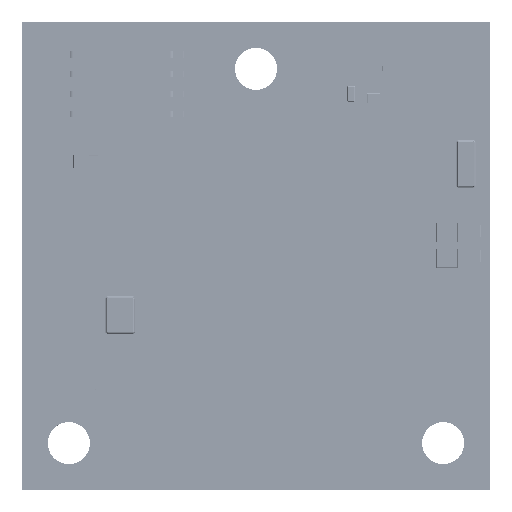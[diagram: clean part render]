
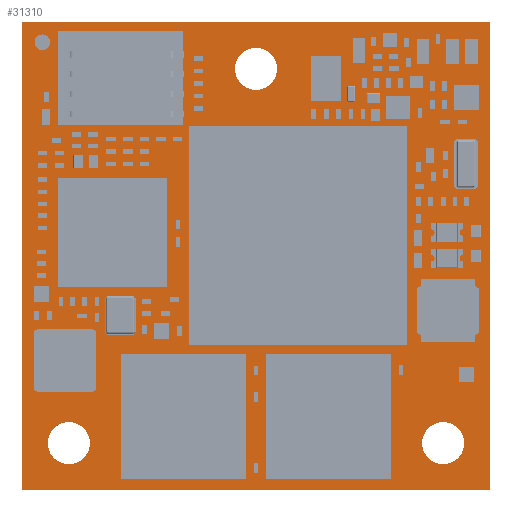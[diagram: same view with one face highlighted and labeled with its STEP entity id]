
A CAD part, top view. The second image highlights one B-rep face of the part: STEP entity #31310.
In plain terms, the highlighted planar face has unit normal (0, 0, 1).
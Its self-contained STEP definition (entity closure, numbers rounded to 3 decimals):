
#31310=ADVANCED_FACE('',(#58432,#58433,#58434,#58435),#58436,.T.);
#58432=FACE_BOUND('',#88091,.T.);
#58433=FACE_BOUND('',#88092,.T.);
#58434=FACE_BOUND('',#88093,.T.);
#58435=FACE_OUTER_BOUND('',#88094,.T.);
#58436=PLANE('',#88095);
#88091=EDGE_LOOP('',(#147600));
#88092=EDGE_LOOP('',(#147601));
#88093=EDGE_LOOP('',(#147602));
#88094=EDGE_LOOP('',(#147603,#147604,#147605,#147606));
#88095=AXIS2_PLACEMENT_3D('',#147607,#147608,#147609);
#147600=ORIENTED_EDGE('',*,*,#168984,.T.);
#147601=ORIENTED_EDGE('',*,*,#168987,.T.);
#147602=ORIENTED_EDGE('',*,*,#168990,.T.);
#147603=ORIENTED_EDGE('',*,*,#168992,.T.);
#147604=ORIENTED_EDGE('',*,*,#168993,.T.);
#147605=ORIENTED_EDGE('',*,*,#168994,.T.);
#147606=ORIENTED_EDGE('',*,*,#168995,.T.);
#147607=CARTESIAN_POINT('',(15.0,15.0,1.581));
#147608=DIRECTION('',(0.0,0.0,1.0));
#147609=DIRECTION('',(1.0,0.0,0.0));
#168984=EDGE_CURVE('',#199921,#199921,#199922,.T.);
#168987=EDGE_CURVE('',#199926,#199926,#199927,.T.);
#168990=EDGE_CURVE('',#199931,#199931,#199932,.T.);
#168992=EDGE_CURVE('',#199934,#199935,#199936,.T.);
#168993=EDGE_CURVE('',#199935,#199937,#199938,.T.);
#168994=EDGE_CURVE('',#199937,#199939,#199940,.T.);
#168995=EDGE_CURVE('',#199939,#199934,#199941,.T.);
#199921=VERTEX_POINT('',#242625);
#199922=CIRCLE('',#242626,1.35);
#199926=VERTEX_POINT('',#242630);
#199927=CIRCLE('',#242631,1.35);
#199931=VERTEX_POINT('',#242635);
#199932=CIRCLE('',#242636,1.35);
#199934=VERTEX_POINT('',#242638);
#199935=VERTEX_POINT('',#242639);
#199936=LINE('',#242640,#242641);
#199937=VERTEX_POINT('',#242642);
#199938=LINE('',#242643,#242644);
#199939=VERTEX_POINT('',#242645);
#199940=LINE('',#242646,#242647);
#199941=LINE('',#242648,#242649);
#242625=CARTESIAN_POINT('',(25.65,3.0,1.581));
#242626=AXIS2_PLACEMENT_3D('',#264953,#264954,#264955);
#242630=CARTESIAN_POINT('',(1.65,3.0,1.581));
#242631=AXIS2_PLACEMENT_3D('',#264959,#264960,#264961);
#242635=CARTESIAN_POINT('',(13.65,27.0,1.581));
#242636=AXIS2_PLACEMENT_3D('',#264965,#264966,#264967);
#242638=CARTESIAN_POINT('',(0.0,0.0,1.581));
#242639=CARTESIAN_POINT('',(30.0,0.0,1.581));
#242640=CARTESIAN_POINT('',(15.0,0.0,1.581));
#242641=VECTOR('',#264968,1.0);
#242642=CARTESIAN_POINT('',(30.0,30.0,1.581));
#242643=CARTESIAN_POINT('',(30.0,15.0,1.581));
#242644=VECTOR('',#264969,1.0);
#242645=CARTESIAN_POINT('',(0.0,30.0,1.581));
#242646=CARTESIAN_POINT('',(15.0,30.0,1.581));
#242647=VECTOR('',#264970,1.0);
#242648=CARTESIAN_POINT('',(0.0,15.0,1.581));
#242649=VECTOR('',#264971,1.0);
#264953=CARTESIAN_POINT('',(27.0,3.0,1.581));
#264954=DIRECTION('',(0.0,0.0,-1.0));
#264955=DIRECTION('',(1.0,0.0,0.0));
#264959=CARTESIAN_POINT('',(3.0,3.0,1.581));
#264960=DIRECTION('',(0.0,0.0,-1.0));
#264961=DIRECTION('',(1.0,0.0,0.0));
#264965=CARTESIAN_POINT('',(15.0,27.0,1.581));
#264966=DIRECTION('',(0.0,0.0,-1.0));
#264967=DIRECTION('',(1.0,0.0,0.0));
#264968=DIRECTION('',(1.0,0.0,0.0));
#264969=DIRECTION('',(0.0,1.0,0.0));
#264970=DIRECTION('',(-1.0,0.0,0.0));
#264971=DIRECTION('',(0.0,-1.0,0.0));
